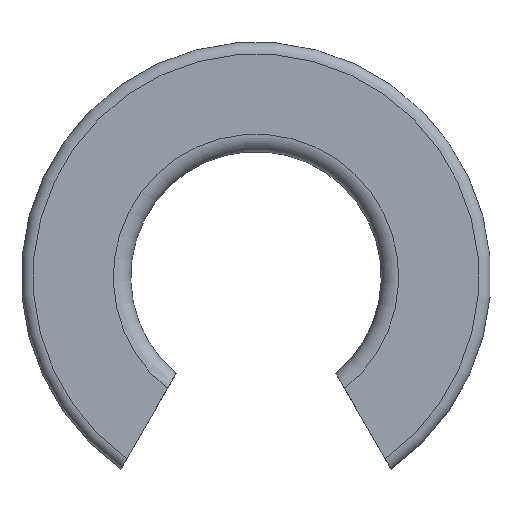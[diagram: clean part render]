
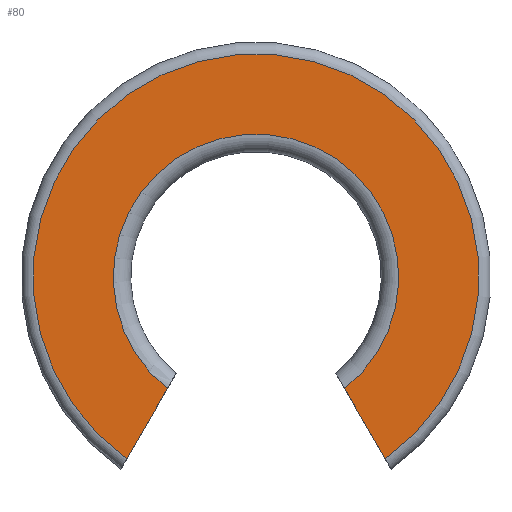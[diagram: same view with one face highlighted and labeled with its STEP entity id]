
A CAD part, left-side view. The second image highlights one B-rep face of the part: STEP entity #80.
In plain terms, the highlighted planar face has unit normal (-1, 0, 0).
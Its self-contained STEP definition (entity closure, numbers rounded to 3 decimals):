
#80=ADVANCED_FACE('',(#112),#113,.F.);
#112=FACE_OUTER_BOUND('',#164,.T.);
#113=PLANE('',#165);
#164=EDGE_LOOP('',(#261,#262,#263,#264));
#165=AXIS2_PLACEMENT_3D('',#265,#266,#267);
#261=ORIENTED_EDGE('',*,*,#428,.F.);
#262=ORIENTED_EDGE('',*,*,#454,.F.);
#263=ORIENTED_EDGE('',*,*,#462,.F.);
#264=ORIENTED_EDGE('',*,*,#463,.T.);
#265=CARTESIAN_POINT('',(0.0,7.119,0.0));
#266=DIRECTION('',(1.0,0.0,0.0));
#267=DIRECTION('',(0.0,0.0,-1.0));
#428=EDGE_CURVE('',#500,#501,#502,.T.);
#454=EDGE_CURVE('',#550,#500,#552,.T.);
#462=EDGE_CURVE('',#564,#550,#565,.T.);
#463=EDGE_CURVE('',#564,#501,#566,.T.);
#500=VERTEX_POINT('',#620);
#501=VERTEX_POINT('',#621);
#502=LINE('',#622,#623);
#550=VERTEX_POINT('',#710);
#552=CIRCLE('',#717,4.558);
#564=VERTEX_POINT('',#740);
#565=LINE('',#741,#742);
#566=CIRCLE('',#743,7.119);
#620=CARTESIAN_POINT('',(0.0,2.832,-3.571));
#621=CARTESIAN_POINT('',(0.0,4.122,-5.804));
#622=CARTESIAN_POINT('',(0.0,2.358,-2.749));
#623=VECTOR('',#820,1.0);
#710=CARTESIAN_POINT('',(0.0,-2.832,-3.571));
#717=AXIS2_PLACEMENT_3D('',#843,#844,#845);
#740=CARTESIAN_POINT('',(0.0,-4.122,-5.804));
#741=CARTESIAN_POINT('',(0.0,1.202,3.416));
#742=VECTOR('',#859,1.0);
#743=AXIS2_PLACEMENT_3D('',#860,#861,#862);
#820=DIRECTION('',(0.0,0.5,-0.866));
#843=CARTESIAN_POINT('',(0.0,0.0,0.0));
#844=DIRECTION('',(-1.0,0.0,0.0));
#845=DIRECTION('',(0.0,0.0,1.0));
#859=DIRECTION('',(0.0,0.5,0.866));
#860=CARTESIAN_POINT('',(0.0,0.0,0.0));
#861=DIRECTION('',(-1.0,0.0,0.0));
#862=DIRECTION('',(0.0,0.0,1.0));
